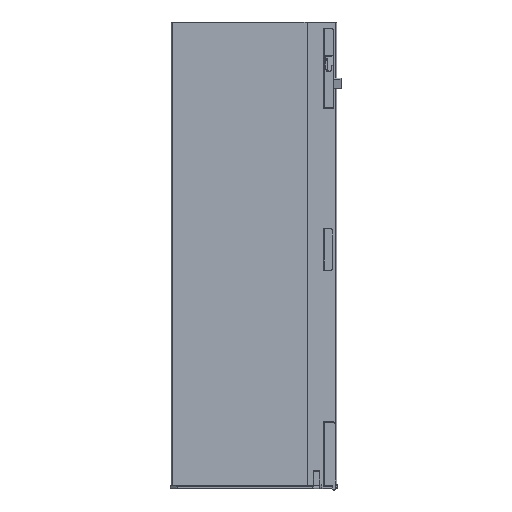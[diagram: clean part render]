
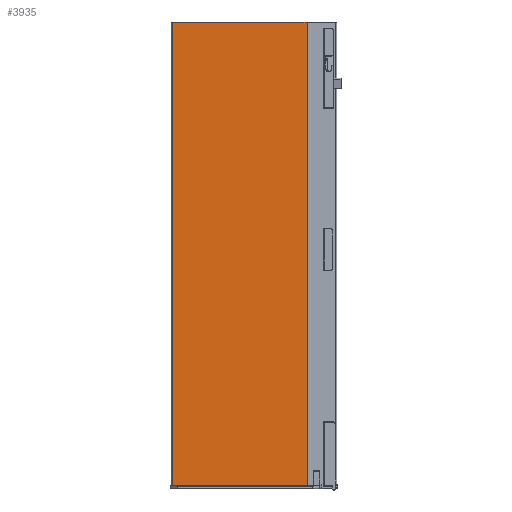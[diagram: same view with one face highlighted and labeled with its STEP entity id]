
A CAD part, left-side view. The second image highlights one B-rep face of the part: STEP entity #3935.
In plain terms, the highlighted planar face has unit normal (-1, 0, 0).
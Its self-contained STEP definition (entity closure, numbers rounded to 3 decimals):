
#479 = LINE ( 'NONE', #14905, #12371 ) ;
#532 = EDGE_LOOP ( 'NONE', ( #10616, #9457, #10833, #6700 ) ) ;
#1400 = LINE ( 'NONE', #12035, #10211 ) ;
#1859 = CARTESIAN_POINT ( 'NONE',  ( 0.5, 141.8, 25. ) ) ;
#1903 = DIRECTION ( 'NONE',  ( 0., 0., -1. ) ) ;
#2827 = DIRECTION ( 'NONE',  ( 0., -1., 0. ) ) ;
#3336 = DIRECTION ( 'NONE',  ( 0., 0., 1. ) ) ;
#3935 = ADVANCED_FACE ( 'NONE', ( #13141 ), #12486, .T. ) ;
#4613 = EDGE_CURVE ( 'NONE', #11376, #10575, #13868, .T. ) ;
#5285 = AXIS2_PLACEMENT_3D ( 'NONE', #10156, #13663, #6764 ) ;
#5348 = EDGE_CURVE ( 'NONE', #5878, #10575, #1400, .T. ) ;
#5878 = VERTEX_POINT ( 'NONE', #7107 ) ;
#6019 = DIRECTION ( 'NONE',  ( 0., 1., 0. ) ) ;
#6564 = CARTESIAN_POINT ( 'NONE',  ( 0.5, 0., 25. ) ) ;
#6647 = VECTOR ( 'NONE', #6019, 1000. ) ;
#6700 = ORIENTED_EDGE ( 'NONE', *, *, #9954, .T. ) ;
#6764 = DIRECTION ( 'NONE',  ( 0., 0., -1. ) ) ;
#7004 = LINE ( 'NONE', #12904, #6647 ) ;
#7107 = CARTESIAN_POINT ( 'NONE',  ( 0.5, 141.8, -462.8 ) ) ;
#9457 = ORIENTED_EDGE ( 'NONE', *, *, #5348, .T. ) ;
#9671 = CARTESIAN_POINT ( 'NONE',  ( 0.5, 0., -462.8 ) ) ;
#9954 = EDGE_CURVE ( 'NONE', #11376, #13429, #7004, .T. ) ;
#10156 = CARTESIAN_POINT ( 'NONE',  ( 0.5, -0.5, -449. ) ) ;
#10211 = VECTOR ( 'NONE', #2827, 1000. ) ;
#10575 = VERTEX_POINT ( 'NONE', #9671 ) ;
#10616 = ORIENTED_EDGE ( 'NONE', *, *, #12567, .F. ) ;
#10833 = ORIENTED_EDGE ( 'NONE', *, *, #4613, .F. ) ;
#11376 = VERTEX_POINT ( 'NONE', #6564 ) ;
#12035 = CARTESIAN_POINT ( 'NONE',  ( 0.5, 0., -462.8 ) ) ;
#12371 = VECTOR ( 'NONE', #3336, 1000. ) ;
#12486 = PLANE ( 'NONE',  #5285 ) ;
#12567 = EDGE_CURVE ( 'NONE', #5878, #13429, #479, .T. ) ;
#12904 = CARTESIAN_POINT ( 'NONE',  ( 0.5, -0.5, 25. ) ) ;
#13141 = FACE_OUTER_BOUND ( 'NONE', #532, .T. ) ;
#13429 = VERTEX_POINT ( 'NONE', #1859 ) ;
#13663 = DIRECTION ( 'NONE',  ( -1., 0., 0. ) ) ;
#13868 = LINE ( 'NONE', #14603, #14225 ) ;
#14225 = VECTOR ( 'NONE', #1903, 1000. ) ;
#14603 = CARTESIAN_POINT ( 'NONE',  ( 0.5, 0., -449. ) ) ;
#14905 = CARTESIAN_POINT ( 'NONE',  ( 0.5, 141.8, -449. ) ) ;
